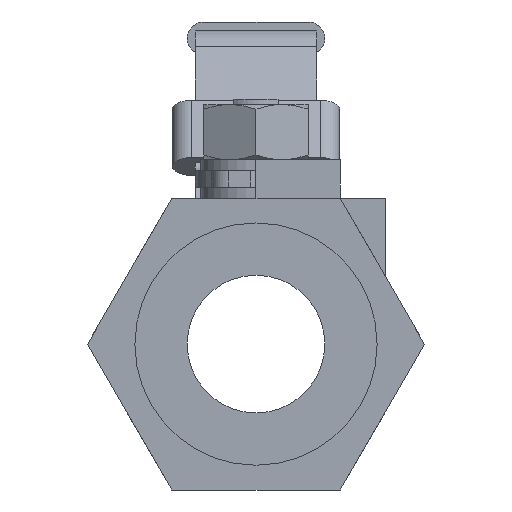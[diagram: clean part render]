
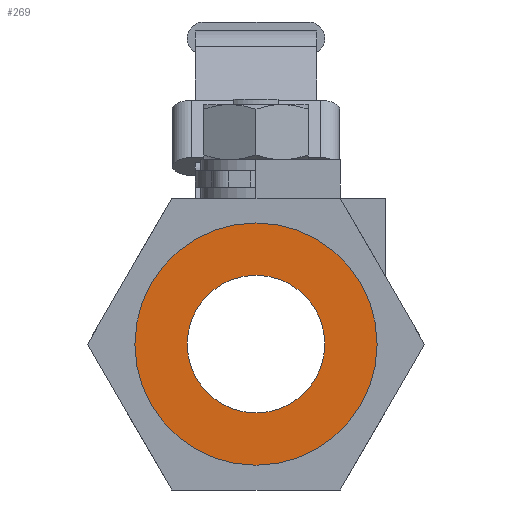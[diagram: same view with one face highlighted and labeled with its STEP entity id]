
A CAD part, left-side view. The second image highlights one B-rep face of the part: STEP entity #269.
In plain terms, the highlighted planar face has unit normal (-1, 0, 0) as drawn and (1, 0, 0) by its records, which use the part's own axes.
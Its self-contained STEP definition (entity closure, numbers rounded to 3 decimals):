
#269=ADVANCED_FACE('',(#1075,#1076),#1074,.T.);
#1074=PLANE('',#2071);
#1075=FACE_OUTER_BOUND('',#2072,.T.);
#1076=FACE_BOUND('',#2073,.T.);
#2068=CARTESIAN_POINT('',(53.,-19.226,77.1));
#2069=DIRECTION('',(1.,0.,0.));
#2070=DIRECTION('',(0.,0.,-1.));
#2071=AXIS2_PLACEMENT_3D('',#2068,#2069,#2070);
#2072=EDGE_LOOP('',(#2714,#2715));
#2073=EDGE_LOOP('',(#2716,#2717));
#2714=ORIENTED_EDGE('',*,*,#3173,.F.);
#2715=ORIENTED_EDGE('',*,*,#3174,.F.);
#2716=ORIENTED_EDGE('',*,*,#3175,.F.);
#2717=ORIENTED_EDGE('',*,*,#3176,.F.);
#3173=EDGE_CURVE('',#4500,#4501,#4502,.T.);
#3174=EDGE_CURVE('',#4501,#4500,#4508,.T.);
#3175=EDGE_CURVE('',#4514,#4515,#4516,.T.);
#3176=EDGE_CURVE('',#4515,#4514,#4522,.T.);
#4500=VERTEX_POINT('',#6242);
#4501=VERTEX_POINT('',#6243);
#4502=CIRCLE('',#6247,22.);
#4508=CIRCLE('',#6251,22.);
#4514=VERTEX_POINT('',#6252);
#4515=VERTEX_POINT('',#6253);
#4516=CIRCLE('',#6257,12.5);
#4522=CIRCLE('',#6261,12.5);
#6242=CARTESIAN_POINT('',(53.,26.5,48.5));
#6243=CARTESIAN_POINT('',(53.,26.5,4.5));
#6244=CARTESIAN_POINT('',(53.,26.5,26.5));
#6245=DIRECTION('',(-1.,0.,0.));
#6246=DIRECTION('',(0.,0.,-1.));
#6247=AXIS2_PLACEMENT_3D('',#6244,#6245,#6246);
#6248=CARTESIAN_POINT('',(53.,26.5,26.5));
#6249=DIRECTION('',(-1.,0.,0.));
#6250=DIRECTION('',(0.,0.,-1.));
#6251=AXIS2_PLACEMENT_3D('',#6248,#6249,#6250);
#6252=CARTESIAN_POINT('',(53.,26.5,39.));
#6253=CARTESIAN_POINT('',(53.,26.5,14.));
#6254=CARTESIAN_POINT('',(53.,26.5,26.5));
#6255=DIRECTION('',(1.,0.,0.));
#6256=DIRECTION('',(0.,0.,-1.));
#6257=AXIS2_PLACEMENT_3D('',#6254,#6255,#6256);
#6258=CARTESIAN_POINT('',(53.,26.5,26.5));
#6259=DIRECTION('',(1.,0.,0.));
#6260=DIRECTION('',(0.,0.,-1.));
#6261=AXIS2_PLACEMENT_3D('',#6258,#6259,#6260);
